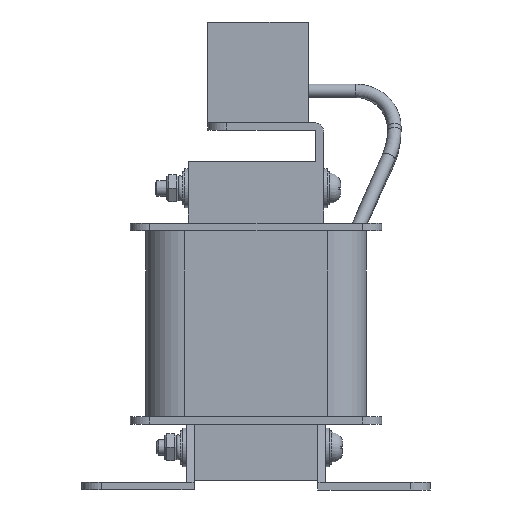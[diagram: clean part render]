
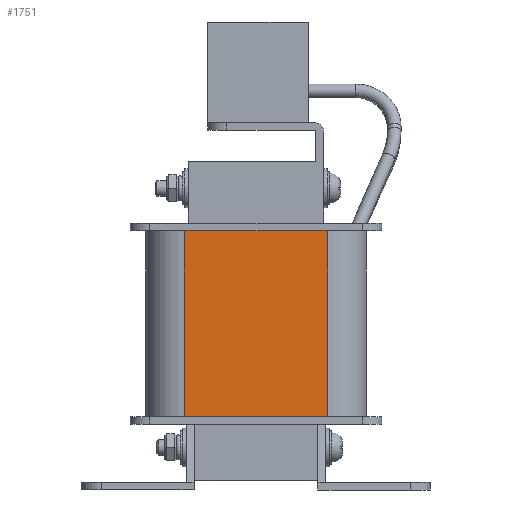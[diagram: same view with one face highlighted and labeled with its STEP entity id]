
A CAD part, left-side view. The second image highlights one B-rep face of the part: STEP entity #1751.
In plain terms, the highlighted planar face has unit normal (-1, 0, 0).
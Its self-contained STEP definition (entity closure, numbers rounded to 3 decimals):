
#1751=ADVANCED_FACE('',(#2273),#2275,.T.);
#2273=FACE_BOUND('',#2274,.T.);
#2274=EDGE_LOOP('',(#3805,#3806,#3807,#3808));
#2275=PLANE('',#2276);
#2276=AXIS2_PLACEMENT_3D('',#2277,#2278,#2279);
#2277=CARTESIAN_POINT('',(-15.,18.5,0.));
#2278=DIRECTION('',(-1.,0.,0.));
#2279=DIRECTION('',(0.,-1.,0.));
#3805=ORIENTED_EDGE('',*,*,#4546,.T.);
#3806=ORIENTED_EDGE('',*,*,#4547,.T.);
#3807=ORIENTED_EDGE('',*,*,#4548,.F.);
#3808=ORIENTED_EDGE('',*,*,#4544,.F.);
#4544=EDGE_CURVE('',#5042,#5044,#5045,.T.);
#4546=EDGE_CURVE('',#5042,#5047,#5048,.T.);
#4547=EDGE_CURVE('',#5047,#5049,#5050,.T.);
#4548=EDGE_CURVE('',#5044,#5049,#5051,.T.);
#5042=VERTEX_POINT('',#6020);
#5044=VERTEX_POINT('',#6025);
#5045=LINE('',#6026,#6027);
#5047=VERTEX_POINT('',#6033);
#5048=LINE('',#6034,#6035);
#5049=VERTEX_POINT('',#6037);
#5050=LINE('',#6038,#6039);
#5051=LINE('',#6041,#6042);
#6020=CARTESIAN_POINT('',(-15.,18.5,0.));
#6025=CARTESIAN_POINT('',(-15.,18.5,48.));
#6026=CARTESIAN_POINT('',(-15.,18.5,0.));
#6027=VECTOR('',#6028,1.);
#6028=DIRECTION('',(0.,0.,1.));
#6033=CARTESIAN_POINT('',(-15.,-18.5,0.));
#6034=CARTESIAN_POINT('',(-15.,18.5,0.));
#6035=VECTOR('',#6036,1.);
#6036=DIRECTION('',(0.,-1.,0.));
#6037=CARTESIAN_POINT('',(-15.,-18.5,48.));
#6038=CARTESIAN_POINT('',(-15.,-18.5,0.));
#6039=VECTOR('',#6040,1.);
#6040=DIRECTION('',(0.,0.,1.));
#6041=CARTESIAN_POINT('',(-15.,18.5,48.));
#6042=VECTOR('',#6043,1.);
#6043=DIRECTION('',(0.,-1.,0.));
